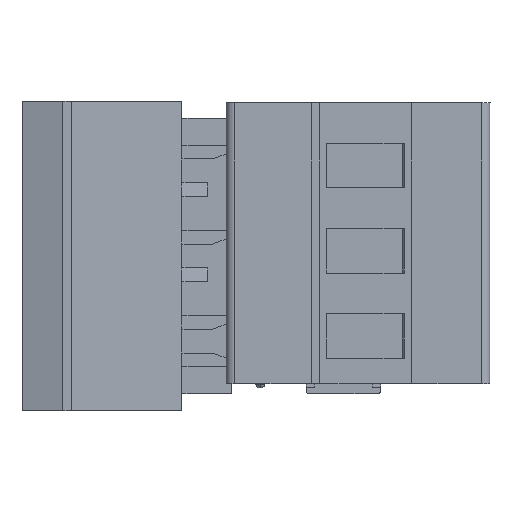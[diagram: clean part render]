
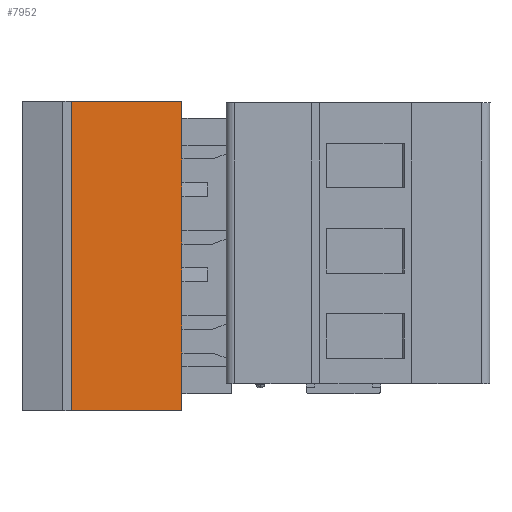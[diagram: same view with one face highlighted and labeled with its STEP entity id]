
A CAD part, left-side view. The second image highlights one B-rep face of the part: STEP entity #7952.
In plain terms, the highlighted planar face has unit normal (-0.999, -0.052, 0).
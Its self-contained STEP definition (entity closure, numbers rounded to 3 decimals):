
#1240=DIRECTION('',(-0.052,0.999,0.));
#1241=VECTOR('',#1240,6.509);
#1242=CARTESIAN_POINT('',(7.,18.1,0.1));
#1243=LINE('',#1242,#1241);
#1300=DIRECTION('',(0.,0.,-1.));
#1301=VECTOR('',#1300,2.6);
#1302=CARTESIAN_POINT('',(7.,18.1,0.1));
#1303=LINE('',#1302,#1301);
#1304=DIRECTION('',(0.,0.,-1.));
#1305=VECTOR('',#1304,1.4);
#1306=CARTESIAN_POINT('',(7.,18.1,-3.3));
#1307=LINE('',#1306,#1305);
#1308=DIRECTION('',(0.,0.,-1.));
#1309=VECTOR('',#1308,0.8);
#1310=CARTESIAN_POINT('',(7.,18.1,-4.7));
#1311=LINE('',#1310,#1309);
#1312=DIRECTION('',(0.,0.,-1.));
#1313=VECTOR('',#1312,2.);
#1314=CARTESIAN_POINT('',(7.,18.1,-5.5));
#1315=LINE('',#1314,#1313);
#1316=DIRECTION('',(0.,0.,-1.));
#1317=VECTOR('',#1316,1.4);
#1318=CARTESIAN_POINT('',(7.,18.1,-8.3));
#1319=LINE('',#1318,#1317);
#1320=DIRECTION('',(0.,0.,-1.));
#1321=VECTOR('',#1320,0.8);
#1322=CARTESIAN_POINT('',(7.,18.1,-9.7));
#1323=LINE('',#1322,#1321);
#1324=DIRECTION('',(0.,0.,-1.));
#1325=VECTOR('',#1324,2.);
#1326=CARTESIAN_POINT('',(7.,18.1,-10.5));
#1327=LINE('',#1326,#1325);
#1328=DIRECTION('',(0.,0.,-1.));
#1329=VECTOR('',#1328,1.4);
#1330=CARTESIAN_POINT('',(7.,18.1,-13.3));
#1331=LINE('',#1330,#1329);
#1332=DIRECTION('',(0.,0.,-1.));
#1333=VECTOR('',#1332,2.6);
#1334=CARTESIAN_POINT('',(7.,18.1,-15.5));
#1335=LINE('',#1334,#1333);
#1336=DIRECTION('',(0.,0.,-1.));
#1337=VECTOR('',#1336,18.2);
#1338=CARTESIAN_POINT('',(6.659,24.6,0.1));
#1339=LINE('',#1338,#1337);
#1364=DIRECTION('',(0.052,-0.999,0.));
#1365=VECTOR('',#1364,6.509);
#1366=CARTESIAN_POINT('',(6.659,24.6,-18.1));
#1367=LINE('',#1366,#1365);
#1820=DIRECTION('',(0.,0.,1.));
#1821=VECTOR('',#1820,0.8);
#1822=CARTESIAN_POINT('',(7.,18.1,-15.5));
#1823=LINE('',#1822,#1821);
#1976=DIRECTION('',(0.,0.,1.));
#1977=VECTOR('',#1976,0.8);
#1978=CARTESIAN_POINT('',(7.,18.1,-13.3));
#1979=LINE('',#1978,#1977);
#2156=DIRECTION('',(0.,0.,1.));
#2157=VECTOR('',#2156,0.8);
#2158=CARTESIAN_POINT('',(7.,18.1,-8.3));
#2159=LINE('',#2158,#2157);
#2336=DIRECTION('',(0.,0.,1.));
#2337=VECTOR('',#2336,0.8);
#2338=CARTESIAN_POINT('',(7.,18.1,-3.3));
#2339=LINE('',#2338,#2337);
#4793=CARTESIAN_POINT('',(7.,18.1,-2.5));
#4794=VERTEX_POINT('',#4793);
#5185=CARTESIAN_POINT('',(7.,18.1,0.1));
#5186=VERTEX_POINT('',#5185);
#5187=CARTESIAN_POINT('',(6.659,24.6,0.1));
#5188=VERTEX_POINT('',#5187);
#5207=CARTESIAN_POINT('',(6.659,24.6,-18.1));
#5208=VERTEX_POINT('',#5207);
#5209=CARTESIAN_POINT('',(7.,18.1,-3.3));
#5210=VERTEX_POINT('',#5209);
#5211=CARTESIAN_POINT('',(7.,18.1,-4.7));
#5212=VERTEX_POINT('',#5211);
#5213=CARTESIAN_POINT('',(7.,18.1,-5.5));
#5214=VERTEX_POINT('',#5213);
#5215=CARTESIAN_POINT('',(7.,18.1,-7.5));
#5216=VERTEX_POINT('',#5215);
#5217=CARTESIAN_POINT('',(7.,18.1,-8.3));
#5218=VERTEX_POINT('',#5217);
#5219=CARTESIAN_POINT('',(7.,18.1,-9.7));
#5220=VERTEX_POINT('',#5219);
#5221=CARTESIAN_POINT('',(7.,18.1,-10.5));
#5222=VERTEX_POINT('',#5221);
#5223=CARTESIAN_POINT('',(7.,18.1,-12.5));
#5224=VERTEX_POINT('',#5223);
#5225=CARTESIAN_POINT('',(7.,18.1,-13.3));
#5226=VERTEX_POINT('',#5225);
#5227=CARTESIAN_POINT('',(7.,18.1,-14.7));
#5228=VERTEX_POINT('',#5227);
#5229=CARTESIAN_POINT('',(7.,18.1,-15.5));
#5230=VERTEX_POINT('',#5229);
#5231=CARTESIAN_POINT('',(7.,18.1,-18.1));
#5232=VERTEX_POINT('',#5231);
#7915=CARTESIAN_POINT('',(6.659,24.6,25.));
#7916=DIRECTION('',(-0.999,-0.052,0.));
#7917=DIRECTION('',(0.052,-0.999,0.));
#7918=AXIS2_PLACEMENT_3D('',#7915,#7916,#7917);
#7919=PLANE('',#7918);
#7921=ORIENTED_EDGE('',*,*,#7920,.F.);
#7922=ORIENTED_EDGE('',*,*,#7859,.F.);
#7923=ORIENTED_EDGE('',*,*,#7908,.T.);
#7925=ORIENTED_EDGE('',*,*,#7924,.F.);
#7927=ORIENTED_EDGE('',*,*,#7926,.T.);
#7929=ORIENTED_EDGE('',*,*,#7928,.T.);
#7931=ORIENTED_EDGE('',*,*,#7930,.T.);
#7933=ORIENTED_EDGE('',*,*,#7932,.F.);
#7935=ORIENTED_EDGE('',*,*,#7934,.T.);
#7937=ORIENTED_EDGE('',*,*,#7936,.T.);
#7939=ORIENTED_EDGE('',*,*,#7938,.T.);
#7941=ORIENTED_EDGE('',*,*,#7940,.F.);
#7943=ORIENTED_EDGE('',*,*,#7942,.T.);
#7945=ORIENTED_EDGE('',*,*,#7944,.F.);
#7947=ORIENTED_EDGE('',*,*,#7946,.T.);
#7949=ORIENTED_EDGE('',*,*,#7948,.F.);
#7950=EDGE_LOOP('',(#7921,#7922,#7923,#7925,#7927,#7929,#7931,#7933,#7935,#7937,
#7939,#7941,#7943,#7945,#7947,#7949));
#7951=FACE_OUTER_BOUND('',#7950,.F.);
#7952=ADVANCED_FACE('',(#7951),#7919,.T.);
#7859=EDGE_CURVE('',#5186,#5188,#1243,.T.);
#7908=EDGE_CURVE('',#5186,#4794,#1303,.T.);
#7920=EDGE_CURVE('',#5188,#5208,#1339,.T.);
#7924=EDGE_CURVE('',#5210,#4794,#2339,.T.);
#7926=EDGE_CURVE('',#5210,#5212,#1307,.T.);
#7928=EDGE_CURVE('',#5212,#5214,#1311,.T.);
#7930=EDGE_CURVE('',#5214,#5216,#1315,.T.);
#7932=EDGE_CURVE('',#5218,#5216,#2159,.T.);
#7934=EDGE_CURVE('',#5218,#5220,#1319,.T.);
#7936=EDGE_CURVE('',#5220,#5222,#1323,.T.);
#7938=EDGE_CURVE('',#5222,#5224,#1327,.T.);
#7940=EDGE_CURVE('',#5226,#5224,#1979,.T.);
#7942=EDGE_CURVE('',#5226,#5228,#1331,.T.);
#7944=EDGE_CURVE('',#5230,#5228,#1823,.T.);
#7946=EDGE_CURVE('',#5230,#5232,#1335,.T.);
#7948=EDGE_CURVE('',#5208,#5232,#1367,.T.);
